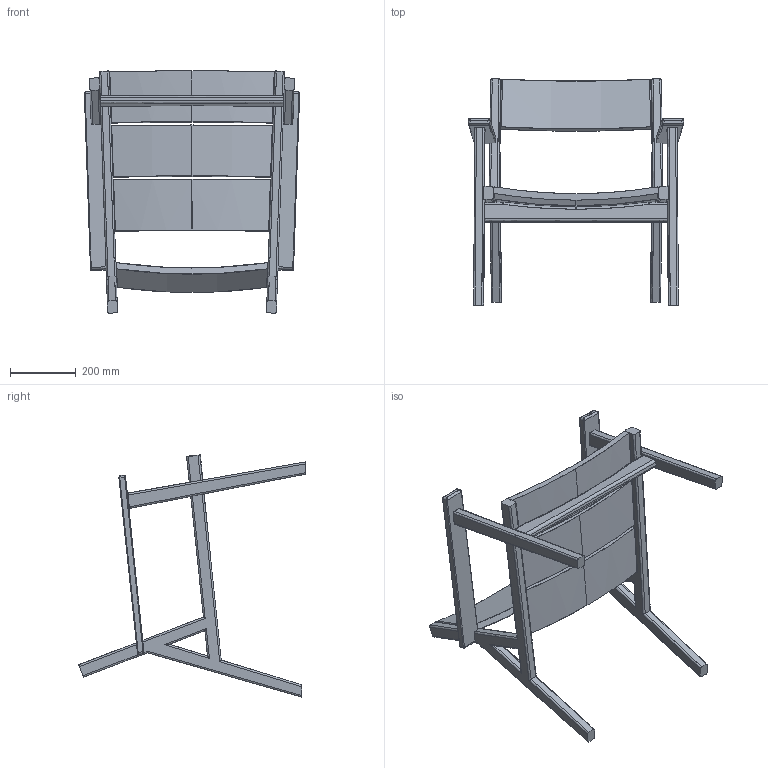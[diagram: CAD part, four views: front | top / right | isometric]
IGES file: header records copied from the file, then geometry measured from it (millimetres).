
Start section: SolidWorks IGES file using analytic representation for surfaces
Global section: file name: C:\Users\Utilizador\Desktop\Outdoor Files\576S Outdoor One Arm Lounge Chair\3D IGS\576S Outdoor Lounge Armchair_3D IGS.IGS; native system: SolidWorks 2016; preprocessor: SolidWorks 2016; author: Utilizador; date: 220124.144031; units: millimetre
Bounding box: 652.96 x 686.52 x 734.69 mm (x, y, z)
Surface area: 1444964 mm2 (no closed solid volume)
Topology: 0 solids, 0 shells, 286 faces, 3204 edges, 3190 vertices
Faces by surface type: bspline 180, revolution 106
